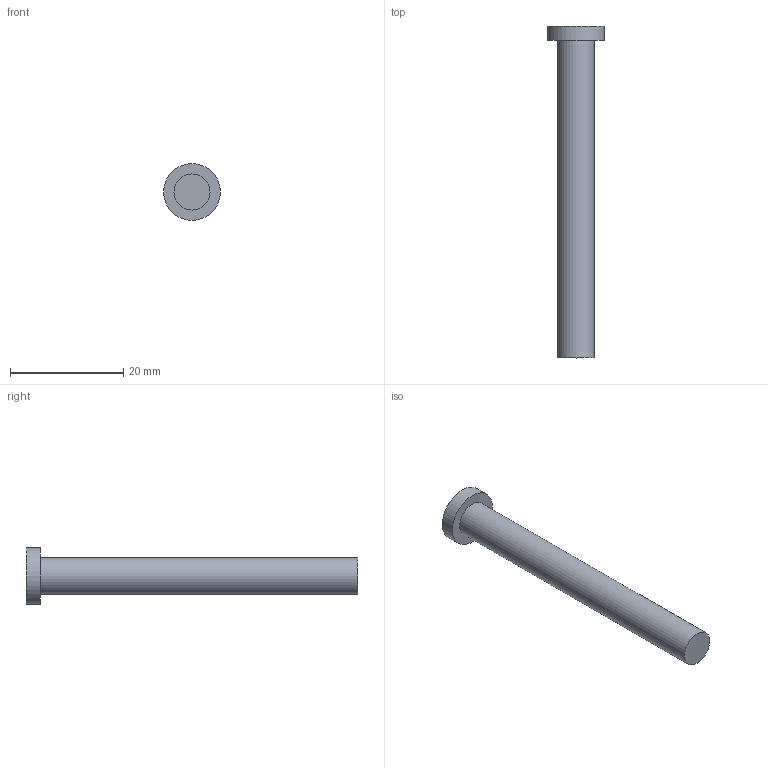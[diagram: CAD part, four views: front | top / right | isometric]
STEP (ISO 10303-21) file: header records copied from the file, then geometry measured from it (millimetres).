
FILE_DESCRIPTION(('Open CASCADE Model'),'2;1');
FILE_NAME('Open CASCADE Shape Model','2026-10-17T22:10:42',('Author'),( 'Open CASCADE'),'Open CASCADE STEP processor 7.9','Open CASCADE 7.9' ,'Unknown');
FILE_SCHEMA(('AUTOMOTIVE_DESIGN { 1 0 10303 214 1 1 1 1 }'));
Length unit declared in the file: millimetre
Products named in the file (1): Open CASCADE STEP translator 7.9 2
Bounding box: 10 x 58.5 x 10 mm (x, y, z)
Volume: 1969.8 mm3; surface area: 1352.8 mm2
Topology: 1 solids, 1 shells, 5 faces, 6 edges, 4 vertices
Faces by surface type: plane 3, cylinder 2
Full cylindrical faces by diameter (mm): 6.35 x1, 10 x1
Entity records: 192 total; most frequent: DIRECTION 34, CARTESIAN_POINT 28, ORIENTED_EDGE 12, PCURVE 12, DEFINITIONAL_REPRESENTATION 12, AXIS2_PLACEMENT_3D 10, LINE 10, VECTOR 10
